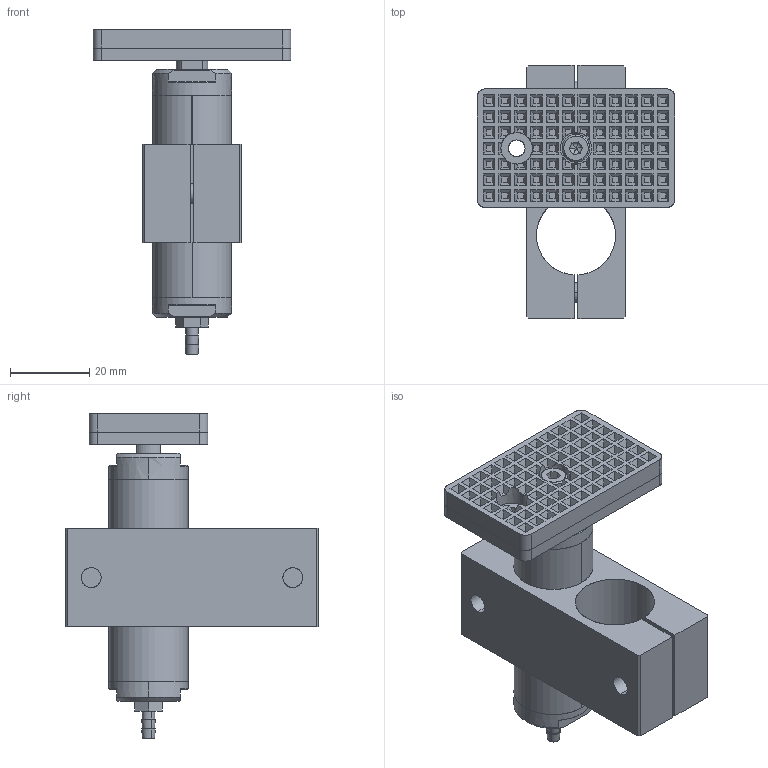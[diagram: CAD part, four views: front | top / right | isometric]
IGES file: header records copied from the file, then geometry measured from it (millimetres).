
Start section: SolidWorks IGES file using analytic representation for surfaces
Global section: file name: E:\EFCKishi\シリンダー\JGM\IGES\JGM-012.IGS; native system: SolidWorks 2006 by SolidWorks Corporation; preprocessor: SolidWorks 2006 by SolidWorks Corporation; author: CAD58; date: 080912.173556; units: millimetre
Bounding box: 50 x 64 x 82.4 mm (x, y, z)
Surface area: 33975.8 mm2 (no closed solid volume)
Topology: 0 solids, 0 shells, 740 faces, 7638 edges, 7618 vertices
Faces by surface type: bspline 561, revolution 179
